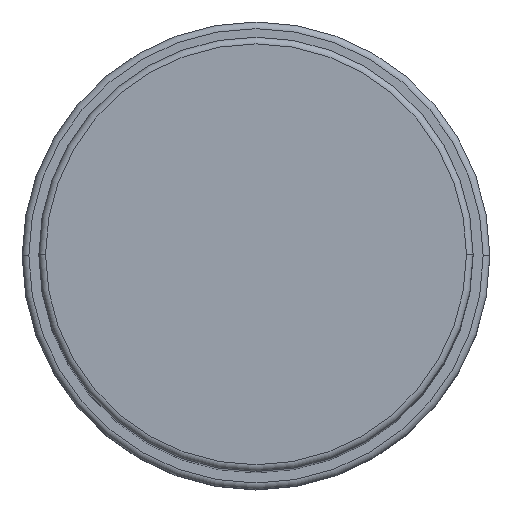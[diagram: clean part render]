
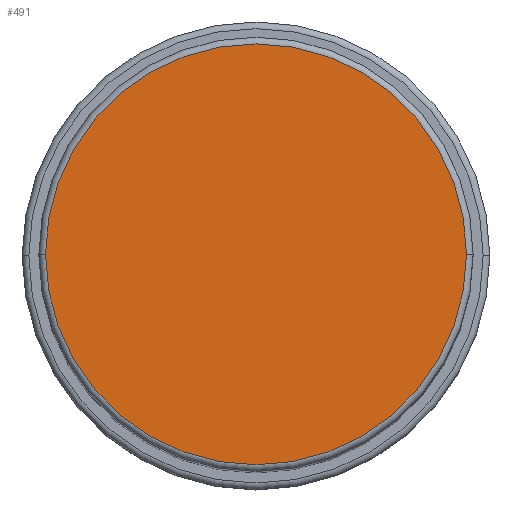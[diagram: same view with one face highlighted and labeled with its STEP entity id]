
A CAD part, top view. The second image highlights one B-rep face of the part: STEP entity #491.
In plain terms, the highlighted planar face has unit normal (0, 0, 1).
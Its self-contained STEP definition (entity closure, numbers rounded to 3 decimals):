
#4 = DIRECTION ( 'NONE',  ( 0., 0., 1. ) ) ;
#10 = DIRECTION ( 'NONE',  ( 0., 0., 1. ) ) ;
#87 = VERTEX_POINT ( 'NONE', #1747 ) ;
#134 = EDGE_LOOP ( 'NONE', ( #139, #631 ) ) ;
#139 = ORIENTED_EDGE ( 'NONE', *, *, #1639, .T. ) ;
#153 = DIRECTION ( 'NONE',  ( 1., 0., 0. ) ) ;
#172 = CARTESIAN_POINT ( 'NONE',  ( 0., 0., 143. ) ) ;
#187 = EDGE_CURVE ( 'NONE', #87, #1112, #1219, .T. ) ;
#423 = DIRECTION ( 'NONE',  ( 1., 0., 0. ) ) ;
#448 = CARTESIAN_POINT ( 'NONE',  ( 0., 0., 143. ) ) ;
#491 = ADVANCED_FACE ( 'NONE', ( #1123 ), #1246, .T. ) ;
#556 = DIRECTION ( 'NONE',  ( 1., 0., 0. ) ) ;
#631 = ORIENTED_EDGE ( 'NONE', *, *, #187, .T. ) ;
#637 = AXIS2_PLACEMENT_3D ( 'NONE', #448, #1222, #423 ) ;
#911 = AXIS2_PLACEMENT_3D ( 'NONE', #172, #10, #556 ) ;
#985 = CIRCLE ( 'NONE', #911, 31.5 ) ;
#1035 = AXIS2_PLACEMENT_3D ( 'NONE', #1368, #4, #153 ) ;
#1112 = VERTEX_POINT ( 'NONE', #1424 ) ;
#1123 = FACE_OUTER_BOUND ( 'NONE', #134, .T. ) ;
#1219 = CIRCLE ( 'NONE', #1035, 31.5 ) ;
#1222 = DIRECTION ( 'NONE',  ( 0., 0., 1. ) ) ;
#1246 = PLANE ( 'NONE',  #637 ) ;
#1368 = CARTESIAN_POINT ( 'NONE',  ( 0., 0., 143. ) ) ;
#1424 = CARTESIAN_POINT ( 'NONE',  ( 31.5, 0., 143. ) ) ;
#1639 = EDGE_CURVE ( 'NONE', #1112, #87, #985, .T. ) ;
#1747 = CARTESIAN_POINT ( 'NONE',  ( -31.5, 0., 143. ) ) ;
